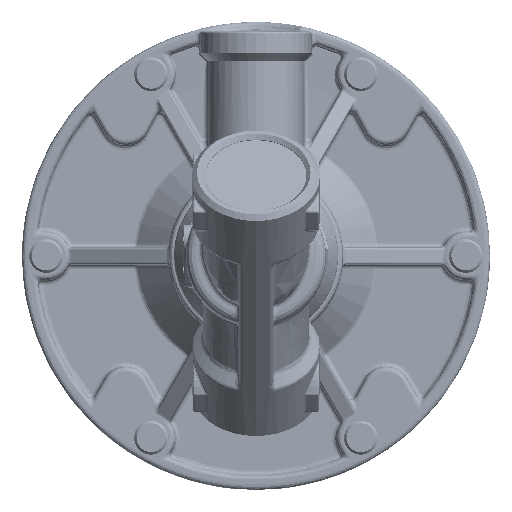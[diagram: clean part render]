
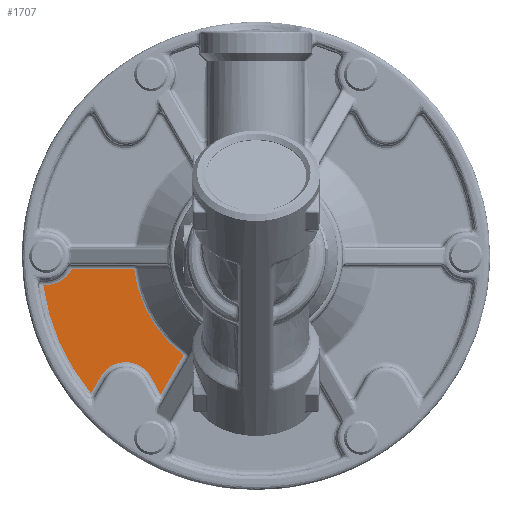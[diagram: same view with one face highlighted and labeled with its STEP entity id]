
A CAD part, front view. The second image highlights one B-rep face of the part: STEP entity #1707.
In plain terms, the highlighted planar face has unit normal (0, -1, 0).
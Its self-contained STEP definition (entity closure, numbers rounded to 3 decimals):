
#1707=ADVANCED_FACE('',(#15837),#15836,.F.);
#15836=PLANE('',#48720);
#15837=FACE_OUTER_BOUND('',#48721,.T.);
#48717=CARTESIAN_POINT('',(-31.342,24.5,12.106));
#48718=DIRECTION('',(0.,1.,0.));
#48719=DIRECTION('',(0.,0.,1.));
#48720=AXIS2_PLACEMENT_3D('',#48717,#48718,#48719);
#48721=EDGE_LOOP('',(#55686,#55687,#55688,#55689,#55690,#55691,#55692,#55693,#55694));
#55686=ORIENTED_EDGE('',*,*,#59452,.T.);
#55687=ORIENTED_EDGE('',*,*,#58697,.T.);
#55688=ORIENTED_EDGE('',*,*,#59428,.T.);
#55689=ORIENTED_EDGE('',*,*,#58705,.T.);
#55690=ORIENTED_EDGE('',*,*,#58708,.T.);
#55691=ORIENTED_EDGE('',*,*,#59454,.T.);
#55692=ORIENTED_EDGE('',*,*,#58710,.T.);
#55693=ORIENTED_EDGE('',*,*,#59449,.T.);
#55694=ORIENTED_EDGE('',*,*,#58703,.T.);
#58697=EDGE_CURVE('',#76658,#76637,#76672,.T.);
#58703=EDGE_CURVE('',#75000,#76706,#76713,.T.);
#58705=EDGE_CURVE('',#76686,#76720,#76727,.T.);
#58708=EDGE_CURVE('',#76720,#76740,#76747,.T.);
#58710=EDGE_CURVE('',#76759,#75021,#76760,.T.);
#59428=EDGE_CURVE('',#76637,#76686,#81432,.T.);
#59449=EDGE_CURVE('',#75021,#75000,#81558,.T.);
#59452=EDGE_CURVE('',#76706,#76658,#81576,.T.);
#59454=EDGE_CURVE('',#76740,#76759,#81588,.T.);
#75000=VERTEX_POINT('',#98893);
#75021=VERTEX_POINT('',#98908);
#76637=VERTEX_POINT('',#100084);
#76658=VERTEX_POINT('',#100099);
#76672=LINE('',#100108,#100109);
#76686=VERTEX_POINT('',#100117);
#76706=VERTEX_POINT('',#100130);
#76713=LINE('',#100135,#100136);
#76720=VERTEX_POINT('',#100139);
#76727=LINE('',#100144,#100145);
#76740=VERTEX_POINT('',#100151);
#76747=CIRCLE('',#100159,6.);
#76759=VERTEX_POINT('',#100164);
#76760=LINE('',#100165,#100166);
#81432=CIRCLE('',#104504,44.5);
#81558=CIRCLE('',#104613,25.414);
#81576=CIRCLE('',#104625,6.);
#81588=LINE('',#104629,#104630);
#98893=CARTESIAN_POINT('',(-2.75,24.5,25.265));
#98908=CARTESIAN_POINT('',(-20.505,24.5,15.014));
#100084=CARTESIAN_POINT('',(-6.,24.5,44.094));
#100099=CARTESIAN_POINT('',(-6.,24.5,43.5));
#100108=CARTESIAN_POINT('',(-6.,24.5,43.5));
#100109=VECTOR('',#100110,0.594);
#100110=DIRECTION('',(0.,0.,1.));
#100117=CARTESIAN_POINT('',(-28.471,24.5,34.2));
#100130=CARTESIAN_POINT('',(-2.75,24.5,38.167));
#100135=CARTESIAN_POINT('',(-2.75,24.5,25.265));
#100136=VECTOR('',#100137,12.902);
#100137=DIRECTION('',(0.,0.,1.));
#100139=CARTESIAN_POINT('',(-25.,24.5,32.196));
#100144=CARTESIAN_POINT('',(-28.471,24.5,34.2));
#100145=VECTOR('',#100146,4.008);
#100146=DIRECTION('',(0.866,0.,-0.5));
#100151=CARTESIAN_POINT('',(-25.138,24.5,21.727));
#100156=CARTESIAN_POINT('',(-28.,24.5,27.));
#100157=DIRECTION('',(0.,1.,0.));
#100158=DIRECTION('',(0.,0.,-1.));
#100159=AXIS2_PLACEMENT_3D('',#100156,#100157,#100158);
#100164=CARTESIAN_POINT('',(-28.743,24.5,19.77));
#100165=CARTESIAN_POINT('',(-28.743,24.5,19.77));
#100166=VECTOR('',#100167,9.512);
#100167=DIRECTION('',(0.866,0.,-0.5));
#104501=CARTESIAN_POINT('',(0.,24.5,0.));
#104502=DIRECTION('',(0.,-1.,0.));
#104503=DIRECTION('',(0.,0.,-1.));
#104504=AXIS2_PLACEMENT_3D('',#104501,#104502,#104503);
#104610=CARTESIAN_POINT('',(0.,24.5,0.));
#104611=DIRECTION('',(0.,1.,0.));
#104612=DIRECTION('',(0.,0.,-1.));
#104613=AXIS2_PLACEMENT_3D('',#104610,#104611,#104612);
#104622=CARTESIAN_POINT('',(0.,24.5,43.5));
#104623=DIRECTION('',(0.,1.,0.));
#104624=DIRECTION('',(0.,0.,-1.));
#104625=AXIS2_PLACEMENT_3D('',#104622,#104623,#104624);
#104629=CARTESIAN_POINT('',(-25.138,24.5,21.727));
#104630=VECTOR('',#104631,4.102);
#104631=DIRECTION('',(-0.879,0.,-0.477));
